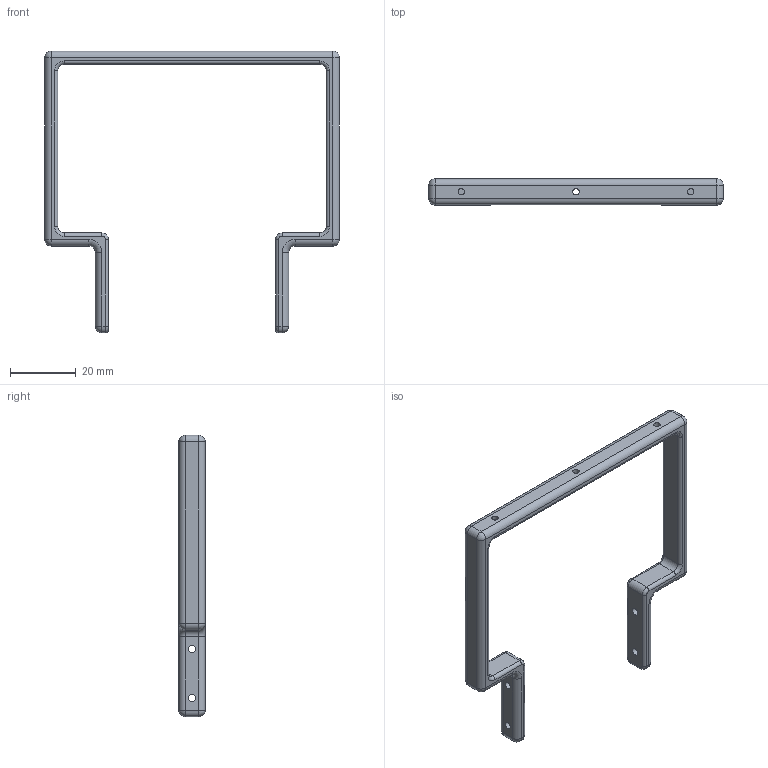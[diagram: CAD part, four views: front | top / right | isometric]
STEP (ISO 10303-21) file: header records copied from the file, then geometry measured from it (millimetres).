
FILE_DESCRIPTION(/* description */ (''),/* implementation_level */ '2;1');
FILE_NAME(/* name */ 'slam sensors stand v4.step',/* time_stamp */ '2025-07-16T17:48:41+08:00',/* author */ (''),/* organization */ (''),/* preprocessor_version */ 'ST-DEVELOPER v20.1',/* originating_system */ 'Autodesk Translation Framework v14.10.0.0',/* authorisation */ '');
FILE_SCHEMA (('AUTOMOTIVE_DESIGN { 1 0 10303 214 3 1 1 }'));
Length unit declared in the file: millimetre
Products named in the file (1): slam sensors stand
Bounding box: 90 x 8 x 86 mm (x, y, z)
Volume: 8387.3 mm3; surface area: 6190.6 mm2
Topology: 1 solids, 1 shells, 105 faces, 233 edges, 130 vertices
Faces by surface type: cylinder 55, plane 18, torus 12, sphere 12, bspline 8
Full cylindrical faces by diameter (mm): 1.95 x3, 2.25 x4
Entity records: 2962 total; most frequent: DIRECTION 559, CARTESIAN_POINT 533, ORIENTED_EDGE 466, EDGE_CURVE 233, AXIS2_PLACEMENT_3D 228, CIRCLE 130, VERTEX_POINT 130, EDGE_LOOP 119
